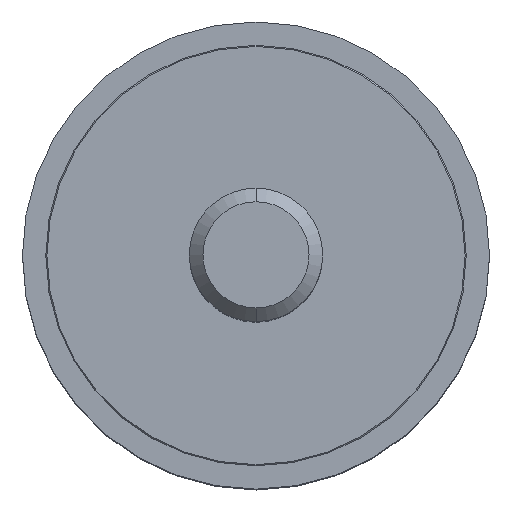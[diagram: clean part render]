
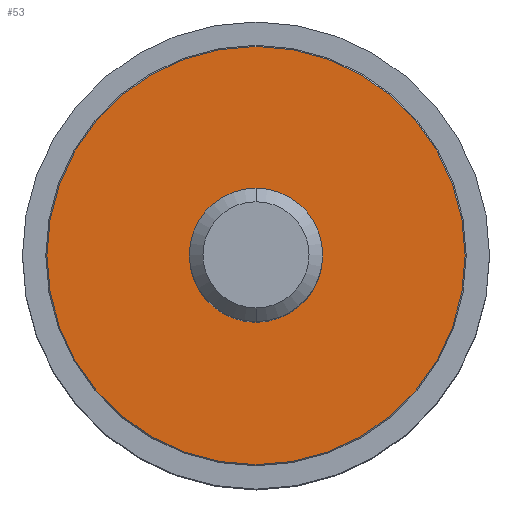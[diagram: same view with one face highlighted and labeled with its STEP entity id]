
A CAD part, top view. The second image highlights one B-rep face of the part: STEP entity #53.
In plain terms, the highlighted planar face has unit normal (0, 0, 1).
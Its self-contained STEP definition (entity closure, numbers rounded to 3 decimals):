
#11 = DIRECTION ( 'NONE',  ( 0., 1., 0. ) ) ;
#53 = ADVANCED_FACE ( 'NONE', ( #477, #291 ), #165, .F. ) ;
#80 = DIRECTION ( 'NONE',  ( 0., 0., -1. ) ) ;
#82 = CARTESIAN_POINT ( 'NONE',  ( 0., -9.4, 22. ) ) ;
#83 = AXIS2_PLACEMENT_3D ( 'NONE', #651, #464, #416 ) ;
#90 = ORIENTED_EDGE ( 'NONE', *, *, #574, .T. ) ;
#136 = CIRCLE ( 'NONE', #599, 3. ) ;
#142 = ORIENTED_EDGE ( 'NONE', *, *, #294, .F. ) ;
#146 = VERTEX_POINT ( 'NONE', #578 ) ;
#165 = PLANE ( 'NONE',  #245 ) ;
#201 = VERTEX_POINT ( 'NONE', #82 ) ;
#209 = CARTESIAN_POINT ( 'NONE',  ( 0., 0., 22. ) ) ;
#213 = CIRCLE ( 'NONE', #83, 3. ) ;
#216 = CARTESIAN_POINT ( 'NONE',  ( 0., -3., 22. ) ) ;
#235 = ORIENTED_EDGE ( 'NONE', *, *, #408, .F. ) ;
#240 = CIRCLE ( 'NONE', #320, 9.4 ) ;
#245 = AXIS2_PLACEMENT_3D ( 'NONE', #526, #675, #357 ) ;
#252 = CARTESIAN_POINT ( 'NONE',  ( 0., 0., 22. ) ) ;
#291 = FACE_BOUND ( 'NONE', #492, .T. ) ;
#294 = EDGE_CURVE ( 'NONE', #201, #679, #240, .T. ) ;
#320 = AXIS2_PLACEMENT_3D ( 'NONE', #252, #516, #356 ) ;
#350 = DIRECTION ( 'NONE',  ( 0., 0., -1. ) ) ;
#356 = DIRECTION ( 'NONE',  ( 0., 1., 0. ) ) ;
#357 = DIRECTION ( 'NONE',  ( 0., 1., 0. ) ) ;
#386 = AXIS2_PLACEMENT_3D ( 'NONE', #209, #80, #11 ) ;
#408 = EDGE_CURVE ( 'NONE', #679, #201, #672, .T. ) ;
#416 = DIRECTION ( 'NONE',  ( 0., 1., 0. ) ) ;
#464 = DIRECTION ( 'NONE',  ( 0., 0., -1. ) ) ;
#477 = FACE_OUTER_BOUND ( 'NONE', #703, .T. ) ;
#492 = EDGE_LOOP ( 'NONE', ( #90, #600 ) ) ;
#498 = EDGE_CURVE ( 'NONE', #637, #146, #213, .T. ) ;
#516 = DIRECTION ( 'NONE',  ( 0., 0., -1. ) ) ;
#526 = CARTESIAN_POINT ( 'NONE',  ( 0., 0., 22. ) ) ;
#534 = CARTESIAN_POINT ( 'NONE',  ( 0., 0., 22. ) ) ;
#574 = EDGE_CURVE ( 'NONE', #146, #637, #136, .T. ) ;
#578 = CARTESIAN_POINT ( 'NONE',  ( 0., 3., 22. ) ) ;
#599 = AXIS2_PLACEMENT_3D ( 'NONE', #534, #350, #723 ) ;
#600 = ORIENTED_EDGE ( 'NONE', *, *, #498, .T. ) ;
#637 = VERTEX_POINT ( 'NONE', #216 ) ;
#651 = CARTESIAN_POINT ( 'NONE',  ( 0., 0., 22. ) ) ;
#672 = CIRCLE ( 'NONE', #386, 9.4 ) ;
#675 = DIRECTION ( 'NONE',  ( 0., 0., -1. ) ) ;
#679 = VERTEX_POINT ( 'NONE', #718 ) ;
#703 = EDGE_LOOP ( 'NONE', ( #235, #142 ) ) ;
#718 = CARTESIAN_POINT ( 'NONE',  ( 0., 9.4, 22. ) ) ;
#723 = DIRECTION ( 'NONE',  ( 0., 1., 0. ) ) ;
